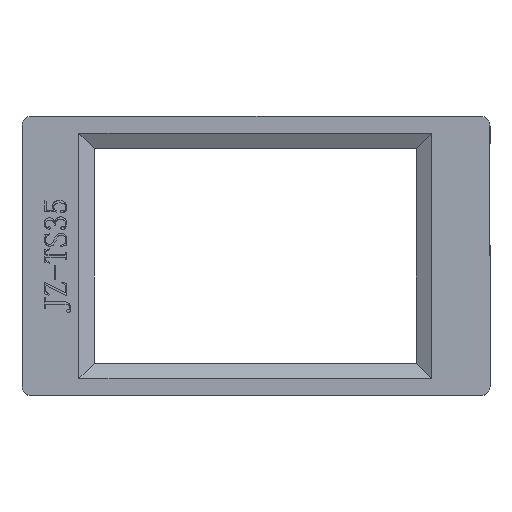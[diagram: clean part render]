
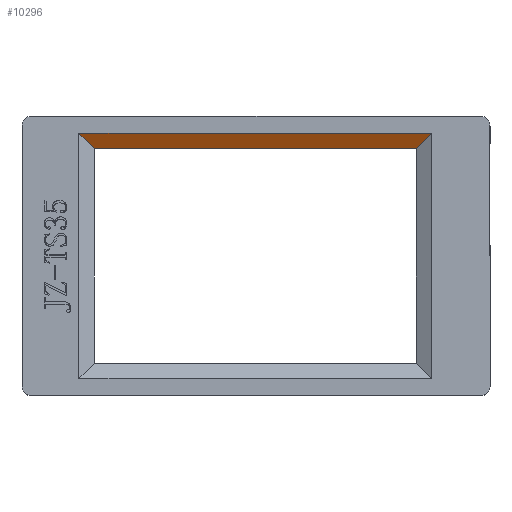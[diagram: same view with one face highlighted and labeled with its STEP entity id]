
A CAD part, top view. The second image highlights one B-rep face of the part: STEP entity #10296.
In plain terms, the highlighted planar face has unit normal (0, -0.5, 0.866).
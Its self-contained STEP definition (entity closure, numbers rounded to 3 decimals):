
#431 = DIRECTION ( 'NONE',  ( 1., 0., 0. ) ) ;
#591 = DIRECTION ( 'NONE',  ( -0.655, 0.655, 0.378 ) ) ;
#802 = LINE ( 'NONE', #7588, #6656 ) ;
#826 = CARTESIAN_POINT ( 'NONE',  ( 87.59, 53.98, -2. ) ) ;
#915 = ORIENTED_EDGE ( 'NONE', *, *, #8225, .F. ) ;
#1264 = CARTESIAN_POINT ( 'NONE',  ( 0., 57.444, 0. ) ) ;
#1615 = CARTESIAN_POINT ( 'NONE',  ( 66.435, 32.825, -14.214 ) ) ;
#2124 = VECTOR ( 'NONE', #431, 1000. ) ;
#2398 = PLANE ( 'NONE',  #14304 ) ;
#3541 = ORIENTED_EDGE ( 'NONE', *, *, #7402, .T. ) ;
#3616 = DIRECTION ( 'NONE',  ( 0., 0.5, -0.866 ) ) ;
#3940 = DIRECTION ( 'NONE',  ( 1., 0., 0. ) ) ;
#4326 = VERTEX_POINT ( 'NONE', #13229 ) ;
#4867 = VERTEX_POINT ( 'NONE', #14575 ) ;
#4911 = VECTOR ( 'NONE', #10914, 1000. ) ;
#6417 = LINE ( 'NONE', #8542, #9120 ) ;
#6656 = VECTOR ( 'NONE', #591, 1000. ) ;
#7402 = EDGE_CURVE ( 'NONE', #4867, #10603, #14145, .T. ) ;
#7432 = CARTESIAN_POINT ( 'NONE',  ( 0., 53.98, -2. ) ) ;
#7588 = CARTESIAN_POINT ( 'NONE',  ( 37.284, 30.846, -15.357 ) ) ;
#8225 = EDGE_CURVE ( 'NONE', #4867, #14065, #802, .T. ) ;
#8366 = LINE ( 'NONE', #1615, #4911 ) ;
#8493 = EDGE_LOOP ( 'NONE', ( #10053, #12290, #915, #3541 ) ) ;
#8542 = CARTESIAN_POINT ( 'NONE',  ( 0., 57.444, 0. ) ) ;
#9120 = VECTOR ( 'NONE', #3940, 1000. ) ;
#10053 = ORIENTED_EDGE ( 'NONE', *, *, #13793, .F. ) ;
#10296 = ADVANCED_FACE ( 'NONE', ( #10617 ), #2398, .F. ) ;
#10603 = VERTEX_POINT ( 'NONE', #826 ) ;
#10617 = FACE_OUTER_BOUND ( 'NONE', #8493, .T. ) ;
#10914 = DIRECTION ( 'NONE',  ( -0.655, -0.655, -0.378 ) ) ;
#11543 = EDGE_CURVE ( 'NONE', #14065, #4326, #6417, .T. ) ;
#11681 = CARTESIAN_POINT ( 'NONE',  ( 10.686, 57.444, 0. ) ) ;
#11767 = DIRECTION ( 'NONE',  ( 1., 0., 0. ) ) ;
#12290 = ORIENTED_EDGE ( 'NONE', *, *, #11543, .F. ) ;
#13229 = CARTESIAN_POINT ( 'NONE',  ( 91.054, 57.444, 0. ) ) ;
#13793 = EDGE_CURVE ( 'NONE', #4326, #10603, #8366, .T. ) ;
#14065 = VERTEX_POINT ( 'NONE', #11681 ) ;
#14145 = LINE ( 'NONE', #7432, #2124 ) ;
#14304 = AXIS2_PLACEMENT_3D ( 'NONE', #1264, #3616, #11767 ) ;
#14575 = CARTESIAN_POINT ( 'NONE',  ( 14.15, 53.98, -2. ) ) ;
